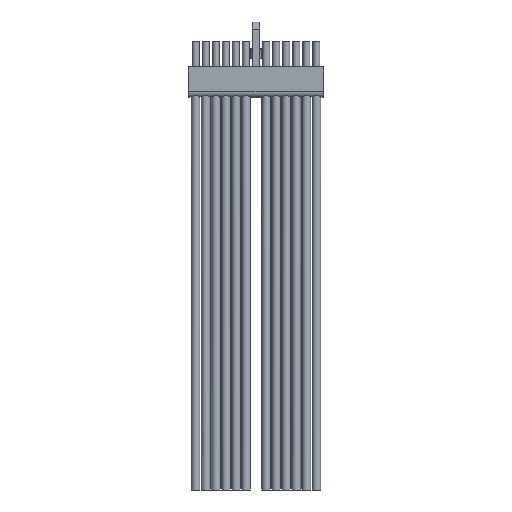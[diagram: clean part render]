
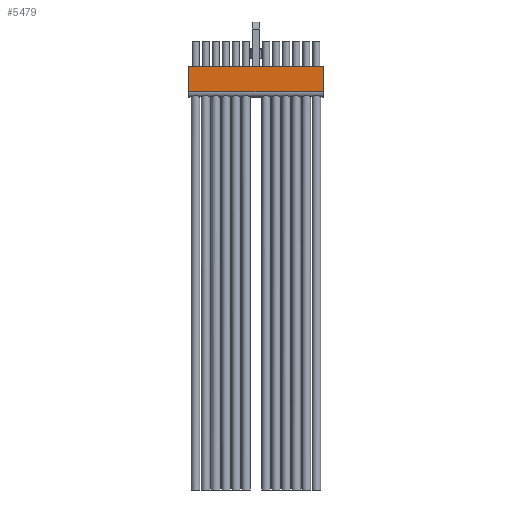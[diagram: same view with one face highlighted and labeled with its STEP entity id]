
A CAD part, front view. The second image highlights one B-rep face of the part: STEP entity #5479.
In plain terms, the highlighted planar face has unit normal (0, -1, 0).
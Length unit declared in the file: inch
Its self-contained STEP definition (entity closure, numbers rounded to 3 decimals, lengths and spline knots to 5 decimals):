
#91 = DIRECTION ( 'NONE',  ( 0., 0., 1. ) ) ;
#130 = VERTEX_POINT ( 'NONE', #582 ) ;
#464 = CARTESIAN_POINT ( 'NONE',  ( -0.335, -0.0375, 0.0625 ) ) ;
#582 = CARTESIAN_POINT ( 'NONE',  ( -0.335, -0.0375, 0.0625 ) ) ;
#682 = LINE ( 'NONE', #3723, #3078 ) ;
#1140 = VECTOR ( 'NONE', #8501, 39.37008 ) ;
#1684 = EDGE_CURVE ( 'NONE', #4382, #130, #3118, .T. ) ;
#1967 = CARTESIAN_POINT ( 'NONE',  ( 0.335, -0.0375, -0.0625 ) ) ;
#3023 = CARTESIAN_POINT ( 'NONE',  ( -0.335, -0.0375, -0.0625 ) ) ;
#3078 = VECTOR ( 'NONE', #6109, 39.37008 ) ;
#3118 = LINE ( 'NONE', #8473, #7374 ) ;
#3277 = PLANE ( 'NONE',  #5416 ) ;
#3650 = DIRECTION ( 'NONE',  ( -1., 0., 0. ) ) ;
#3723 = CARTESIAN_POINT ( 'NONE',  ( 0.335, -0.0375, 0.0625 ) ) ;
#3881 = EDGE_CURVE ( 'NONE', #4382, #5685, #682, .T. ) ;
#4005 = ORIENTED_EDGE ( 'NONE', *, *, #1684, .T. ) ;
#4382 = VERTEX_POINT ( 'NONE', #6837 ) ;
#4634 = EDGE_LOOP ( 'NONE', ( #7261, #4005, #9795, #5653 ) ) ;
#4855 = LINE ( 'NONE', #5635, #9751 ) ;
#4881 = DIRECTION ( 'NONE',  ( 0., 1., 0. ) ) ;
#5416 = AXIS2_PLACEMENT_3D ( 'NONE', #6388, #4881, #91 ) ;
#5479 = ADVANCED_FACE ( 'NONE', ( #8616 ), #3277, .F. ) ;
#5635 = CARTESIAN_POINT ( 'NONE',  ( 2.2125, -0.0375, -0.0625 ) ) ;
#5653 = ORIENTED_EDGE ( 'NONE', *, *, #9207, .F. ) ;
#5685 = VERTEX_POINT ( 'NONE', #1967 ) ;
#6109 = DIRECTION ( 'NONE',  ( 0., 0., -1. ) ) ;
#6388 = CARTESIAN_POINT ( 'NONE',  ( 2.2125, -0.0375, 0.0625 ) ) ;
#6837 = CARTESIAN_POINT ( 'NONE',  ( 0.335, -0.0375, 0.0625 ) ) ;
#7261 = ORIENTED_EDGE ( 'NONE', *, *, #3881, .F. ) ;
#7262 = DIRECTION ( 'NONE',  ( -1., 0., 0. ) ) ;
#7374 = VECTOR ( 'NONE', #3650, 39.37008 ) ;
#7852 = EDGE_CURVE ( 'NONE', #130, #8540, #9679, .T. ) ;
#8473 = CARTESIAN_POINT ( 'NONE',  ( 2.2125, -0.0375, 0.0625 ) ) ;
#8501 = DIRECTION ( 'NONE',  ( 0., 0., -1. ) ) ;
#8540 = VERTEX_POINT ( 'NONE', #3023 ) ;
#8616 = FACE_OUTER_BOUND ( 'NONE', #4634, .T. ) ;
#9207 = EDGE_CURVE ( 'NONE', #5685, #8540, #4855, .T. ) ;
#9679 = LINE ( 'NONE', #464, #1140 ) ;
#9751 = VECTOR ( 'NONE', #7262, 39.37008 ) ;
#9795 = ORIENTED_EDGE ( 'NONE', *, *, #7852, .T. ) ;
